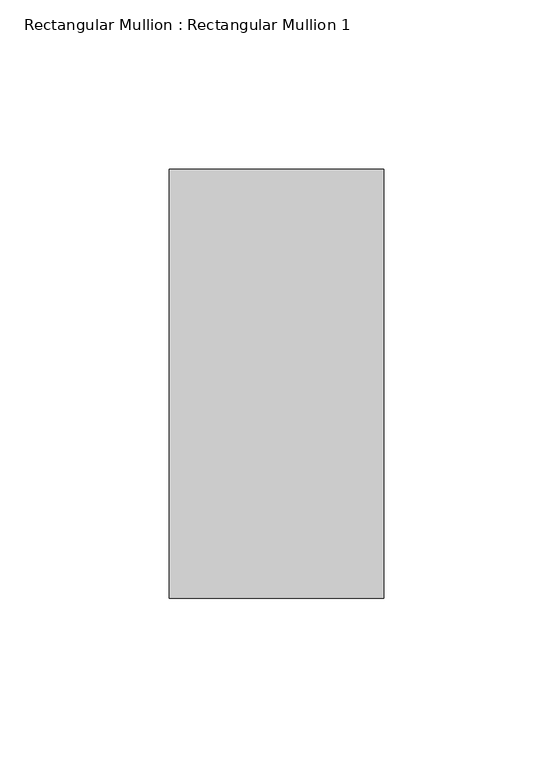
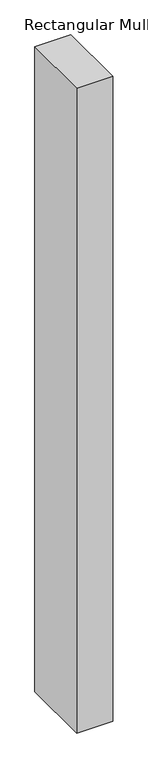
"""IFC4 building model written with IfcOpenShell, lengths in millimetres: member geometry, Rectangular Mullion : Rectangular Mullion 1."""

from ifc_helpers import new_model, si_unit, frame, origin, place, context, project, spatial, polyline, outline, extrude, source, transform, mapped, element, save


def rectangular_mullion_rectangular_mullion_1_9cceb9fc(model_context):
    return source(origin(), model_context, "Body", "SweptSolid", [
        extrude(outline(polyline([(0.0, 63.5), (0.0, -63.5), (-63.5, -63.5), (-63.5, 63.5), (0.0, 63.5)])), frame((0.0, 0.0, -1200.0), z_axis=(0.0, 0.0, 1.0), x_axis=(1.0, 0.0, 0.0)), (0.0, 0.0, 1.0), 1200.0),
    ])


if __name__ == "__main__":
    model = new_model("IFC4")
    model_context = context("Model", 3, world=origin())
    ifc_project = project(units=[si_unit("LENGTHUNIT", "METRE", prefix="MILLI")], contexts=[model_context])
    site = spatial("IfcSite", under=ifc_project)
    building = spatial("IfcBuilding", under=site)
    placement = place(None, origin())
    rectangular_mullion_rectangular_mullion_1_shape = rectangular_mullion_rectangular_mullion_1_9cceb9fc(model_context)
    element("IfcMember", 1, ObjectType="Rectangular Mullion : Rectangular Mullion 1", at=placement, inside=building, context=model_context, shape_type="MappedRepresentation", body=[
        mapped(rectangular_mullion_rectangular_mullion_1_shape, transform((0.0, 0.0, 0.0), x_axis=(1.0, 0.0, 0.0), y_axis=(0.0, 1.0, 0.0), z_axis=(0.0, 0.0, 1.0))),
    ])
    save(model, "model.ifc")
